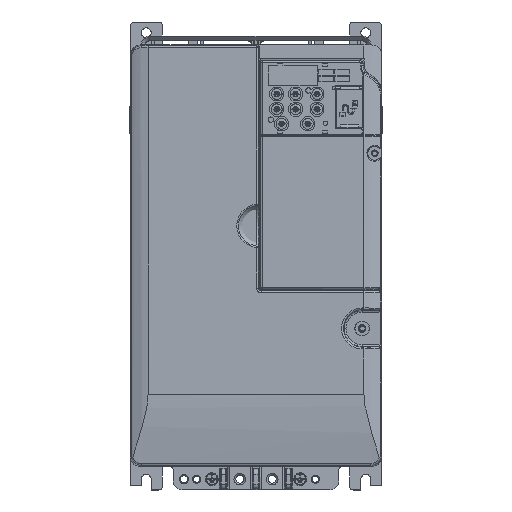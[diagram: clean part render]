
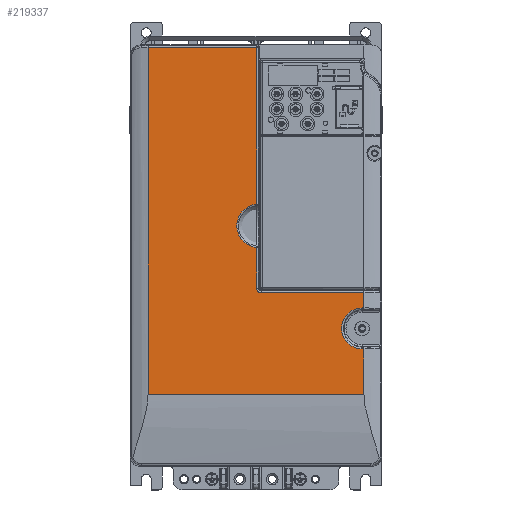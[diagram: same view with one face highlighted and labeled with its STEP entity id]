
A CAD part, top view. The second image highlights one B-rep face of the part: STEP entity #219337.
In plain terms, the highlighted planar face has unit normal (0, 0, 1).
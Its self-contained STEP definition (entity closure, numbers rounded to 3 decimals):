
#215988=CARTESIAN_POINT('',(1.5,16.5,11.5));
#215989=DIRECTION('',(0.,0.,1.));
#215990=DIRECTION('',(-0.098,0.995,0.));
#215991=AXIS2_PLACEMENT_3D('',#215988,#215989,#215990);
#215993=DIRECTION('',(0.,1.,0.));
#215994=VECTOR('',#215993,22.617);
#215995=CARTESIAN_POINT('',(0.317,-18.184,
11.5));
#215996=LINE('',#215995,#215994);
#215997=CARTESIAN_POINT('',(2.816,-20.683,
11.5));
#215998=CARTESIAN_POINT('',(2.654,-20.683,
11.5));
#215999=CARTESIAN_POINT('',(2.335,-20.653,
11.5));
#216000=CARTESIAN_POINT('',(1.86,-20.511,
11.5));
#216001=CARTESIAN_POINT('',(1.419,-20.276,
11.5));
#216002=CARTESIAN_POINT('',(1.039,-19.964,
11.5));
#216003=CARTESIAN_POINT('',(0.726,-19.584,
11.5));
#216004=CARTESIAN_POINT('',(0.491,-19.146,
11.5));
#216005=CARTESIAN_POINT('',(0.348,-18.668,
11.5));
#216006=CARTESIAN_POINT('',(0.317,-18.347,
11.5));
#216007=CARTESIAN_POINT('',(0.317,-18.184,
11.5));
#216009=DIRECTION('',(-1.,0.,0.));
#216010=VECTOR('',#216009,57.184);
#216011=CARTESIAN_POINT('',(60.,-20.684,
11.5));
#216012=LINE('',#216011,#216010);
#216013=DIRECTION('',(0.,1.,0.));
#216014=VECTOR('',#216013,8.422);
#216015=CARTESIAN_POINT('',(60.,-29.105,
11.5));
#216016=LINE('',#216015,#216014);
#216017=DIRECTION('',(1.,0.,0.));
#216018=VECTOR('',#216017,1.);
#216019=CARTESIAN_POINT('',(59.,-29.106,11.5));
#216020=LINE('',#216019,#216018);
#216021=CARTESIAN_POINT('',(59.,-40.5,11.5));
#216022=DIRECTION('',(0.,0.,-1.));
#216023=DIRECTION('',(0.,-1.,0.));
#216024=AXIS2_PLACEMENT_3D('',#216021,#216022,#216023);
#216026=DIRECTION('',(-1.,0.,0.));
#216027=VECTOR('',#216026,1.);
#216028=CARTESIAN_POINT('',(60.,-51.895,
11.5));
#216029=LINE('',#216028,#216027);
#216030=DIRECTION('',(0.,1.,0.));
#216031=VECTOR('',#216030,25.105);
#216032=CARTESIAN_POINT('',(60.,-77.,11.5));
#216033=LINE('',#216032,#216031);
#216034=DIRECTION('',(1.,0.,0.));
#216035=VECTOR('',#216034,120.);
#216036=CARTESIAN_POINT('',(-60.,-77.,11.5));
#216037=LINE('',#216036,#216035);
#216038=DIRECTION('',(0.,1.,0.));
#216039=VECTOR('',#216038,192.448);
#216040=CARTESIAN_POINT('',(-60.,-77.,11.5));
#216041=LINE('',#216040,#216039);
#216042=DIRECTION('',(-1.,0.,
0.));
#216043=VECTOR('',#216042,60.317);
#216044=CARTESIAN_POINT('',(0.317,115.448,11.5));
#216045=LINE('',#216044,#216043);
#216046=DIRECTION('',(0.,1.,0.));
#216047=VECTOR('',#216046,86.882);
#216048=CARTESIAN_POINT('',(0.317,28.566,11.5));
#216049=LINE('',#216048,#216047);
#216660=CARTESIAN_POINT('',(60.,-51.895,
11.5));
#216675=CARTESIAN_POINT('',(60.,-29.105,
11.5));
#217032=CARTESIAN_POINT('',(60.,-20.684,
11.5));
#218557=CARTESIAN_POINT('',(-60.,115.448,
11.5));
#218684=CARTESIAN_POINT('',(0.317,28.566,11.5));
#218685=CARTESIAN_POINT('',(0.317,4.434,11.5));
#218686=VERTEX_POINT('',#218684);
#218687=VERTEX_POINT('',#218685);
#218697=VERTEX_POINT('',#218557);
#218714=VERTEX_POINT('',#216660);
#218721=VERTEX_POINT('',#216675);
#218724=CARTESIAN_POINT('',(-60.,-77.,11.5));
#218725=CARTESIAN_POINT('',(60.,-77.,11.5));
#218726=VERTEX_POINT('',#218724);
#218727=VERTEX_POINT('',#218725);
#218772=VERTEX_POINT('',#217032);
#218809=CARTESIAN_POINT('',(2.816,-20.683,
11.5));
#218810=VERTEX_POINT('',#218809);
#218813=VERTEX_POINT('',#216007);
#218815=CARTESIAN_POINT('',(59.,-51.894,11.5));
#218816=VERTEX_POINT('',#218815);
#218819=CARTESIAN_POINT('',(59.,-29.106,11.5));
#218820=VERTEX_POINT('',#218819);
#218851=CARTESIAN_POINT('',(0.317,115.448,11.5));
#218852=VERTEX_POINT('',#218851);
#219304=CARTESIAN_POINT('',(0.,0.,11.5));
#219305=DIRECTION('',(0.,0.,1.));
#219306=DIRECTION('',(1.,0.,0.));
#219307=AXIS2_PLACEMENT_3D('',#219304,#219305,#219306);
#219308=PLANE('',#219307);
#219310=ORIENTED_EDGE('',*,*,#219309,.T.);
#219312=ORIENTED_EDGE('',*,*,#219311,.F.);
#219314=ORIENTED_EDGE('',*,*,#219313,.F.);
#219316=ORIENTED_EDGE('',*,*,#219315,.F.);
#219318=ORIENTED_EDGE('',*,*,#219317,.F.);
#219320=ORIENTED_EDGE('',*,*,#219319,.F.);
#219322=ORIENTED_EDGE('',*,*,#219321,.F.);
#219324=ORIENTED_EDGE('',*,*,#219323,.F.);
#219326=ORIENTED_EDGE('',*,*,#219325,.F.);
#219328=ORIENTED_EDGE('',*,*,#219327,.F.);
#219330=ORIENTED_EDGE('',*,*,#219329,.T.);
#219332=ORIENTED_EDGE('',*,*,#219331,.F.);
#219334=ORIENTED_EDGE('',*,*,#219333,.F.);
#219335=EDGE_LOOP('',(#219310,#219312,#219314,#219316,#219318,#219320,#219322,
#219324,#219326,#219328,#219330,#219332,#219334));
#219336=FACE_OUTER_BOUND('',#219335,.F.);
#219337=ADVANCED_FACE('',(#219336),#219308,.T.);
#215992=CIRCLE('',#215991,12.124);
#216008=B_SPLINE_CURVE_WITH_KNOTS('',3,(#215997,#215998,#215999,#216000,#216001,
#216002,#216003,#216004,#216005,#216006,#216007),.UNSPECIFIED.,.F.,.F.,(4,1,1,1,
1,1,1,1,4),(0.,0.125,0.25,0.375,0.5,0.625,0.75,0.875,1.),
.UNSPECIFIED.);
#216025=CIRCLE('',#216024,11.394);
#219309=EDGE_CURVE('',#218686,#218687,#215992,.T.);
#219311=EDGE_CURVE('',#218813,#218687,#215996,.T.);
#219313=EDGE_CURVE('',#218810,#218813,#216008,.T.);
#219315=EDGE_CURVE('',#218772,#218810,#216012,.T.);
#219317=EDGE_CURVE('',#218721,#218772,#216016,.T.);
#219319=EDGE_CURVE('',#218820,#218721,#216020,.T.);
#219321=EDGE_CURVE('',#218816,#218820,#216025,.T.);
#219323=EDGE_CURVE('',#218714,#218816,#216029,.T.);
#219325=EDGE_CURVE('',#218727,#218714,#216033,.T.);
#219327=EDGE_CURVE('',#218726,#218727,#216037,.T.);
#219329=EDGE_CURVE('',#218726,#218697,#216041,.T.);
#219331=EDGE_CURVE('',#218852,#218697,#216045,.T.);
#219333=EDGE_CURVE('',#218686,#218852,#216049,.T.);
